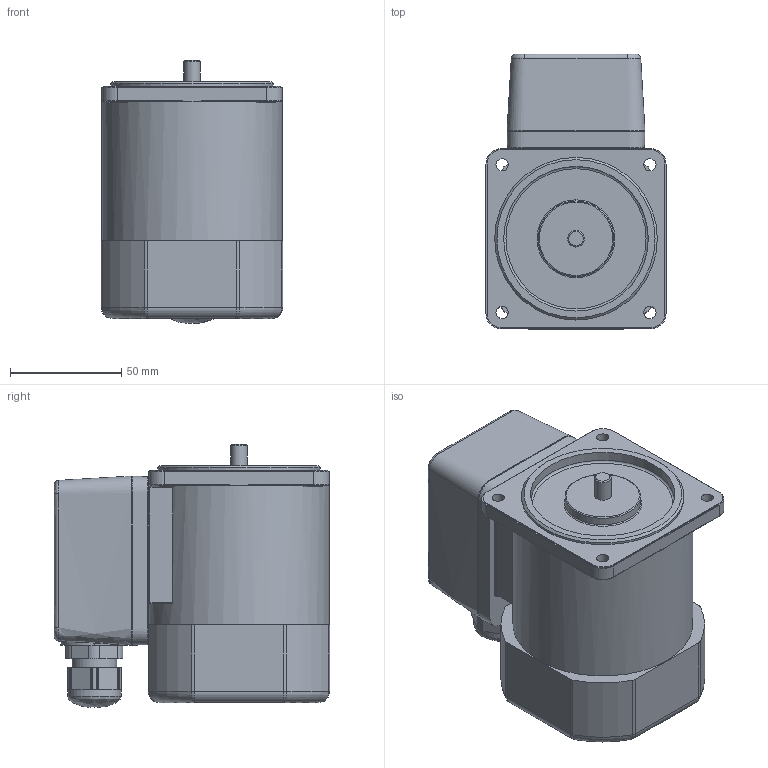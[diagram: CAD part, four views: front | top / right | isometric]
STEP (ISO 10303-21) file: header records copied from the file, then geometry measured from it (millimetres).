
FILE_DESCRIPTION (( 'STEP AP203' ), '1' );
FILE_NAME ('8IDG¤±-40FG-T.STEP', '2022-09-20T02:31:09', ( '' ), ( '' ), 'SwSTEP 2.0', 'SolidWorks 2018', '' );
FILE_SCHEMA (( 'CONFIG_CONTROL_DESIGN' ));
Length unit declared in the file: millimetre
Products named in the file (5): 8IDG､ｱ-40FG; TB6276; 8IDG､ｱ-40FG-T
Assembly tree (2 placements, depth 2):
  8IDG､ｱ-40FG
  8IDG､ｱ-40FG-T
    8IDG､ｱ-40FG
    TB6276
  TB6276
Bounding box: 81.6 x 123.8 x 118.23 mm (x, y, z)
Volume: 779957.5 mm3; surface area: 68177.9 mm2
Topology: 2 solids, 7 shells, 333 faces, 850 edges, 541 vertices
Faces by surface type: plane 143, cylinder 122, bspline 47, torus 17, cone 2, sphere 2
Full cylindrical faces by diameter (mm): 2.911 x1, 3.5 x4, 3.841 x1, 5.5 x4, 7.49 x1, 20 x1, 24 x1, 34 x1, 65 x1, 73.1 x1, 81 x1
Entity records: 12263 total; most frequent: CARTESIAN_POINT 4100, ORIENTED_EDGE 1586, DIRECTION 1574, EDGE_CURVE 793, AXIS2_PLACEMENT_3D 580, VERTEX_POINT 531, VECTOR 414, LINE 414
